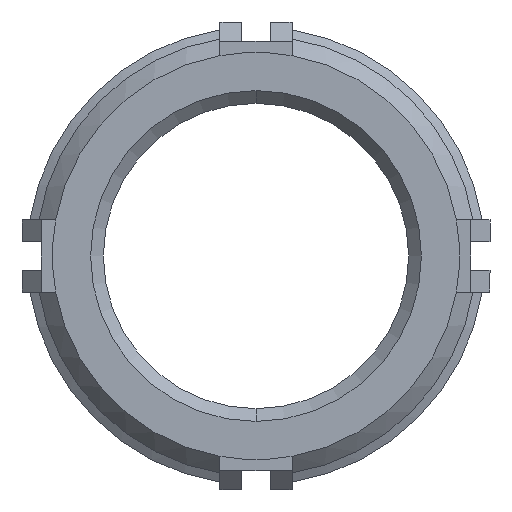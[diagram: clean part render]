
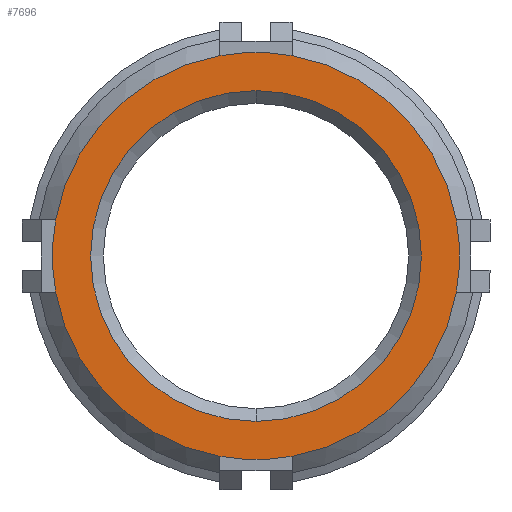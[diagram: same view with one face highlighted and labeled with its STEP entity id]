
A CAD part, front view. The second image highlights one B-rep face of the part: STEP entity #7696.
In plain terms, the highlighted planar face has unit normal (0, -1, 0).
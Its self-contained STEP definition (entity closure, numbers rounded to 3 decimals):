
#216 = CARTESIAN_POINT ( 'NONE',  ( 0., -34.798, 0. ) ) ;
#250 = CARTESIAN_POINT ( 'NONE',  ( -3., -34.798, -16.665 ) ) ;
#383 = VERTEX_POINT ( 'NONE', #1852 ) ;
#530 = ORIENTED_EDGE ( 'NONE', *, *, #3707, .T. ) ;
#562 = AXIS2_PLACEMENT_3D ( 'NONE', #3546, #6723, #7235 ) ;
#601 = DIRECTION ( 'NONE',  ( 0., 1., 0. ) ) ;
#635 = DIRECTION ( 'NONE',  ( 0., 0., 1. ) ) ;
#699 = DIRECTION ( 'NONE',  ( 0., 0., -1. ) ) ;
#773 = DIRECTION ( 'NONE',  ( 0., 0., 1. ) ) ;
#796 = AXIS2_PLACEMENT_3D ( 'NONE', #1340, #601, #1921 ) ;
#958 = CIRCLE ( 'NONE', #562, 13.758 ) ;
#979 = DIRECTION ( 'NONE',  ( 1., 0., 0. ) ) ;
#995 = EDGE_CURVE ( 'NONE', #1922, #6334, #5029, .T. ) ;
#1022 = VERTEX_POINT ( 'NONE', #3604 ) ;
#1080 = AXIS2_PLACEMENT_3D ( 'NONE', #5113, #6367, #635 ) ;
#1182 = EDGE_CURVE ( 'NONE', #1207, #7121, #5826, .T. ) ;
#1207 = VERTEX_POINT ( 'NONE', #250 ) ;
#1238 = VERTEX_POINT ( 'NONE', #2181 ) ;
#1246 = CIRCLE ( 'NONE', #6700, 13.758 ) ;
#1283 = CARTESIAN_POINT ( 'NONE',  ( 0., -34.798, 0. ) ) ;
#1310 = EDGE_LOOP ( 'NONE', ( #6825, #3352, #1891, #530, #4183, #5295, #3119, #5103 ) ) ;
#1340 = CARTESIAN_POINT ( 'NONE',  ( 0., -34.798, 0. ) ) ;
#1387 = ORIENTED_EDGE ( 'NONE', *, *, #3641, .T. ) ;
#1603 = ORIENTED_EDGE ( 'NONE', *, *, #5990, .T. ) ;
#1729 = CARTESIAN_POINT ( 'NONE',  ( 0., -34.798, 0. ) ) ;
#1852 = CARTESIAN_POINT ( 'NONE',  ( -16.665, -34.798, 3. ) ) ;
#1880 = CIRCLE ( 'NONE', #7335, 16.933 ) ;
#1891 = ORIENTED_EDGE ( 'NONE', *, *, #1182, .T. ) ;
#1921 = DIRECTION ( 'NONE',  ( 0., 0., 1. ) ) ;
#1922 = VERTEX_POINT ( 'NONE', #7158 ) ;
#2108 = VERTEX_POINT ( 'NONE', #5487 ) ;
#2181 = CARTESIAN_POINT ( 'NONE',  ( 0., -34.798, -13.758 ) ) ;
#2272 = EDGE_CURVE ( 'NONE', #1022, #1207, #6242, .T. ) ;
#2558 = DIRECTION ( 'NONE',  ( -1., 0., 0. ) ) ;
#2714 = DIRECTION ( 'NONE',  ( 0., -1., 0. ) ) ;
#2717 = CARTESIAN_POINT ( 'NONE',  ( 3., -34.798, 16.665 ) ) ;
#2773 = EDGE_CURVE ( 'NONE', #383, #1022, #4657, .T. ) ;
#2852 = DIRECTION ( 'NONE',  ( 0., 1., 0. ) ) ;
#2951 = CIRCLE ( 'NONE', #4409, 16.933 ) ;
#3063 = AXIS2_PLACEMENT_3D ( 'NONE', #6116, #6039, #773 ) ;
#3119 = ORIENTED_EDGE ( 'NONE', *, *, #4888, .T. ) ;
#3272 = CARTESIAN_POINT ( 'NONE',  ( 3., -34.798, -16.665 ) ) ;
#3293 = CARTESIAN_POINT ( 'NONE',  ( 0., -34.798, 0. ) ) ;
#3352 = ORIENTED_EDGE ( 'NONE', *, *, #2272, .T. ) ;
#3354 = CIRCLE ( 'NONE', #7484, 16.933 ) ;
#3386 = DIRECTION ( 'NONE',  ( 0., 0., 1. ) ) ;
#3458 = DIRECTION ( 'NONE',  ( 0., -1., 0. ) ) ;
#3481 = DIRECTION ( 'NONE',  ( 0., 0., 1. ) ) ;
#3546 = CARTESIAN_POINT ( 'NONE',  ( 0., -34.798, 0. ) ) ;
#3604 = CARTESIAN_POINT ( 'NONE',  ( -16.665, -34.798, -3. ) ) ;
#3641 = EDGE_CURVE ( 'NONE', #1238, #7870, #958, .T. ) ;
#3707 = EDGE_CURVE ( 'NONE', #7121, #7473, #8114, .T. ) ;
#3743 = EDGE_CURVE ( 'NONE', #2108, #383, #1880, .T. ) ;
#3804 = CARTESIAN_POINT ( 'NONE',  ( 0., -34.798, 0. ) ) ;
#4183 = ORIENTED_EDGE ( 'NONE', *, *, #5341, .T. ) ;
#4409 = AXIS2_PLACEMENT_3D ( 'NONE', #4582, #3458, #979 ) ;
#4489 = FACE_OUTER_BOUND ( 'NONE', #1310, .T. ) ;
#4497 = AXIS2_PLACEMENT_3D ( 'NONE', #1283, #5717, #2558 ) ;
#4582 = CARTESIAN_POINT ( 'NONE',  ( 0., -34.798, 0. ) ) ;
#4635 = DIRECTION ( 'NONE',  ( 0., -1., 0. ) ) ;
#4657 = CIRCLE ( 'NONE', #1080, 16.933 ) ;
#4732 = DIRECTION ( 'NONE',  ( 0., -1., 0. ) ) ;
#4888 = EDGE_CURVE ( 'NONE', #6334, #2108, #2951, .T. ) ;
#5029 = CIRCLE ( 'NONE', #6362, 16.933 ) ;
#5095 = DIRECTION ( 'NONE',  ( 0., -1., 0. ) ) ;
#5103 = ORIENTED_EDGE ( 'NONE', *, *, #3743, .T. ) ;
#5113 = CARTESIAN_POINT ( 'NONE',  ( 0., -34.798, 0. ) ) ;
#5295 = ORIENTED_EDGE ( 'NONE', *, *, #995, .T. ) ;
#5341 = EDGE_CURVE ( 'NONE', #7473, #1922, #3354, .T. ) ;
#5487 = CARTESIAN_POINT ( 'NONE',  ( -3., -34.798, 16.665 ) ) ;
#5717 = DIRECTION ( 'NONE',  ( 0., -1., 0. ) ) ;
#5826 = CIRCLE ( 'NONE', #4497, 16.933 ) ;
#5982 = CARTESIAN_POINT ( 'NONE',  ( 0., -34.798, 0. ) ) ;
#5990 = EDGE_CURVE ( 'NONE', #7870, #1238, #1246, .T. ) ;
#6039 = DIRECTION ( 'NONE',  ( 0., -1., 0. ) ) ;
#6116 = CARTESIAN_POINT ( 'NONE',  ( 0., -34.798, 0. ) ) ;
#6242 = CIRCLE ( 'NONE', #7442, 16.933 ) ;
#6334 = VERTEX_POINT ( 'NONE', #2717 ) ;
#6362 = AXIS2_PLACEMENT_3D ( 'NONE', #5982, #4732, #3481 ) ;
#6367 = DIRECTION ( 'NONE',  ( 0., -1., 0. ) ) ;
#6668 = DIRECTION ( 'NONE',  ( 0., 0., 1. ) ) ;
#6700 = AXIS2_PLACEMENT_3D ( 'NONE', #1729, #2852, #7430 ) ;
#6723 = DIRECTION ( 'NONE',  ( 0., 1., 0. ) ) ;
#6825 = ORIENTED_EDGE ( 'NONE', *, *, #2773, .T. ) ;
#7036 = PLANE ( 'NONE',  #796 ) ;
#7121 = VERTEX_POINT ( 'NONE', #3272 ) ;
#7158 = CARTESIAN_POINT ( 'NONE',  ( 16.665, -34.798, 3. ) ) ;
#7235 = DIRECTION ( 'NONE',  ( 0., 0., 1. ) ) ;
#7335 = AXIS2_PLACEMENT_3D ( 'NONE', #3293, #2714, #6668 ) ;
#7430 = DIRECTION ( 'NONE',  ( 0., 0., 1. ) ) ;
#7442 = AXIS2_PLACEMENT_3D ( 'NONE', #216, #4635, #3386 ) ;
#7473 = VERTEX_POINT ( 'NONE', #7956 ) ;
#7484 = AXIS2_PLACEMENT_3D ( 'NONE', #3804, #5095, #699 ) ;
#7625 = FACE_BOUND ( 'NONE', #7854, .T. ) ;
#7696 = ADVANCED_FACE ( 'NONE', ( #7625, #4489 ), #7036, .F. ) ;
#7823 = CARTESIAN_POINT ( 'NONE',  ( 0., -34.798, 13.758 ) ) ;
#7854 = EDGE_LOOP ( 'NONE', ( #1387, #1603 ) ) ;
#7870 = VERTEX_POINT ( 'NONE', #7823 ) ;
#7956 = CARTESIAN_POINT ( 'NONE',  ( 16.665, -34.798, -3. ) ) ;
#8114 = CIRCLE ( 'NONE', #3063, 16.933 ) ;
